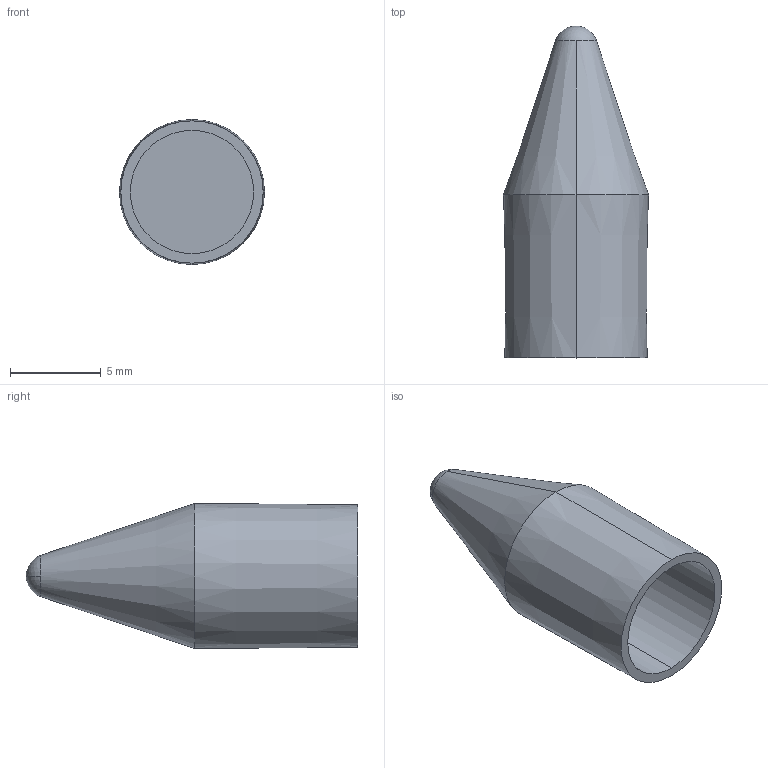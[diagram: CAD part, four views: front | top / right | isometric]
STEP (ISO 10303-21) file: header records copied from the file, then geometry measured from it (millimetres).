
FILE_DESCRIPTION (( 'STEP AP203' ), '1' );
FILE_NAME ('Silvent 5001.STEP', '2003-09-23T11:47:59', ( 'Ulf Persson' ), ( '' ), 'SwSTEP 2.0', 'SolidWorks 2003099', '' );
FILE_SCHEMA (( 'CONFIG_CONTROL_DESIGN' ));
Length unit declared in the file: millimetre
Products named in the file (1): Silvent 5001
Bounding box: 8 x 18.3 x 8 mm (x, y, z)
Volume: 349.3 mm3; surface area: 594 mm2
Topology: 1 solids, 1 shells, 10 faces, 20 edges, 13 vertices
Faces by surface type: cone 4, sphere 2, plane 2, cylinder 2
Entity records: 347 total; most frequent: DIRECTION 56, CARTESIAN_POINT 44, ORIENTED_EDGE 40, AXIS2_PLACEMENT_3D 25, EDGE_CURVE 20, CIRCLE 14, VERTEX_POINT 13, EDGE_LOOP 11
